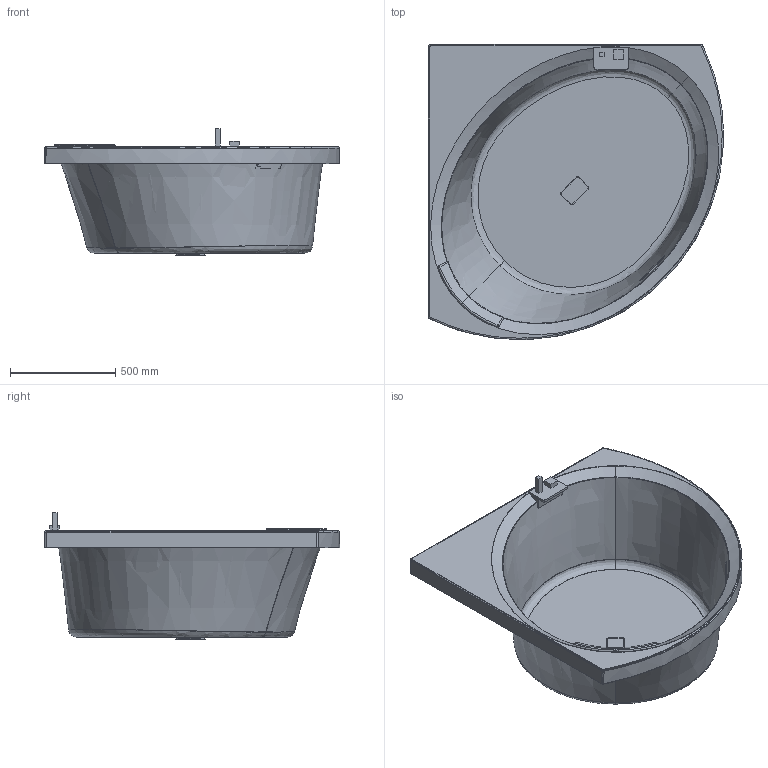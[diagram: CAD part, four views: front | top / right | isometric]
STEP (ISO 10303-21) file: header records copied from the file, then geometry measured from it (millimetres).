
FILE_DESCRIPTION(('STEP AP203'),'2;1');
FILE_NAME('DIV11401402.stp','2016-02-24T17:37:17',(''),(''),'2014.1.117','THINKDESIGN','');
FILE_SCHEMA(('CONFIG_CONTROL_DESIGN'));
Length unit declared in the file: millimetre
Bounding box: 1399.06 x 1399.06 x 599.88 mm (x, y, z)
Volume: 11327885.1 mm3; surface area: 7172835.2 mm2
Topology: 5 solids, 5 shells, 144 faces, 336 edges, 202 vertices
Faces by surface type: bspline 59, plane 58, cylinder 27
Entity records: 11612 total; most frequent: CARTESIAN_POINT 8644, ORIENTED_EDGE 656, DIRECTION 456, EDGE_CURVE 328, VERTEX_POINT 202, VECTOR 162, LINE 162, EDGE_LOOP 152
